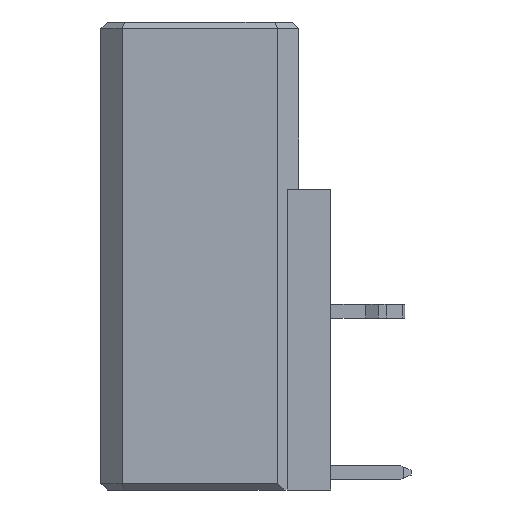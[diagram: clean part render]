
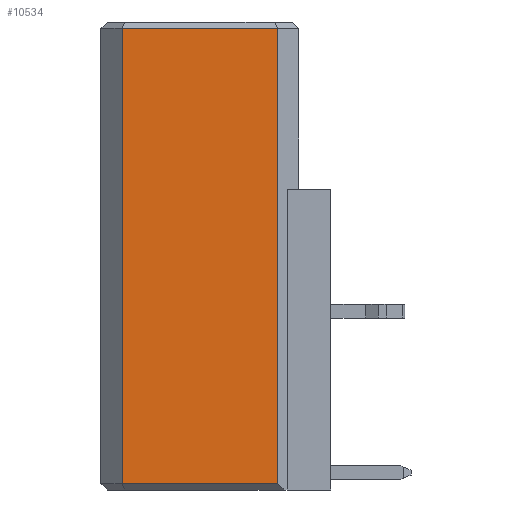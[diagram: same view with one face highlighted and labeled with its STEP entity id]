
A CAD part, left-side view. The second image highlights one B-rep face of the part: STEP entity #10534.
In plain terms, the highlighted planar face has unit normal (-1, 0, 0).
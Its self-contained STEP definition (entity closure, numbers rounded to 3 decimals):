
#253 = VECTOR ( 'NONE', #17539, 1000. ) ;
#535 = ORIENTED_EDGE ( 'NONE', *, *, #3619, .T. ) ;
#1033 = AXIS2_PLACEMENT_3D ( 'NONE', #16188, #10735, #17566 ) ;
#1105 = CARTESIAN_POINT ( 'NONE',  ( -12.715, 3.85, -22.1 ) ) ;
#1517 = VECTOR ( 'NONE', #5642, 1000. ) ;
#1756 = LINE ( 'NONE', #1105, #15243 ) ;
#1789 = FACE_OUTER_BOUND ( 'NONE', #13999, .T. ) ;
#1951 = VECTOR ( 'NONE', #16390, 1000. ) ;
#2325 = PLANE ( 'NONE',  #1033 ) ;
#2581 = LINE ( 'NONE', #17377, #1951 ) ;
#2893 = ORIENTED_EDGE ( 'NONE', *, *, #4260, .T. ) ;
#3619 = EDGE_CURVE ( 'NONE', #8730, #4682, #12430, .T. ) ;
#3906 = EDGE_CURVE ( 'NONE', #15647, #14353, #6901, .T. ) ;
#4260 = EDGE_CURVE ( 'NONE', #4682, #15647, #1756, .T. ) ;
#4282 = CARTESIAN_POINT ( 'NONE',  ( -12.715, 3.85, -21.8 ) ) ;
#4682 = VERTEX_POINT ( 'NONE', #4945 ) ;
#4945 = CARTESIAN_POINT ( 'NONE',  ( -12.715, 3.85, -0.3 ) ) ;
#5642 = DIRECTION ( 'NONE',  ( 0., 1., 0. ) ) ;
#6901 = LINE ( 'NONE', #16157, #253 ) ;
#7842 = CARTESIAN_POINT ( 'NONE',  ( -12.715, -3.5, -21.8 ) ) ;
#8364 = CARTESIAN_POINT ( 'NONE',  ( -12.715, -3.5, -0.3 ) ) ;
#8730 = VERTEX_POINT ( 'NONE', #8364 ) ;
#10534 = ADVANCED_FACE ( 'NONE', ( #1789 ), #2325, .T. ) ;
#10735 = DIRECTION ( 'NONE',  ( -1., 0., 0. ) ) ;
#11810 = ORIENTED_EDGE ( 'NONE', *, *, #3906, .T. ) ;
#11941 = DIRECTION ( 'NONE',  ( 0., 0., -1. ) ) ;
#12328 = EDGE_CURVE ( 'NONE', #14353, #8730, #2581, .T. ) ;
#12430 = LINE ( 'NONE', #15067, #1517 ) ;
#13999 = EDGE_LOOP ( 'NONE', ( #2893, #11810, #17319, #535 ) ) ;
#14353 = VERTEX_POINT ( 'NONE', #7842 ) ;
#15067 = CARTESIAN_POINT ( 'NONE',  ( -12.715, 4.85, -0.3 ) ) ;
#15243 = VECTOR ( 'NONE', #11941, 1000. ) ;
#15647 = VERTEX_POINT ( 'NONE', #4282 ) ;
#16157 = CARTESIAN_POINT ( 'NONE',  ( -12.715, -3.5, -21.8 ) ) ;
#16188 = CARTESIAN_POINT ( 'NONE',  ( -12.715, 4.85, -22.1 ) ) ;
#16390 = DIRECTION ( 'NONE',  ( 0., 0., 1. ) ) ;
#17319 = ORIENTED_EDGE ( 'NONE', *, *, #12328, .T. ) ;
#17377 = CARTESIAN_POINT ( 'NONE',  ( -12.715, -3.5, -22.1 ) ) ;
#17539 = DIRECTION ( 'NONE',  ( 0., -1., 0. ) ) ;
#17566 = DIRECTION ( 'NONE',  ( 0., -1., 0. ) ) ;
